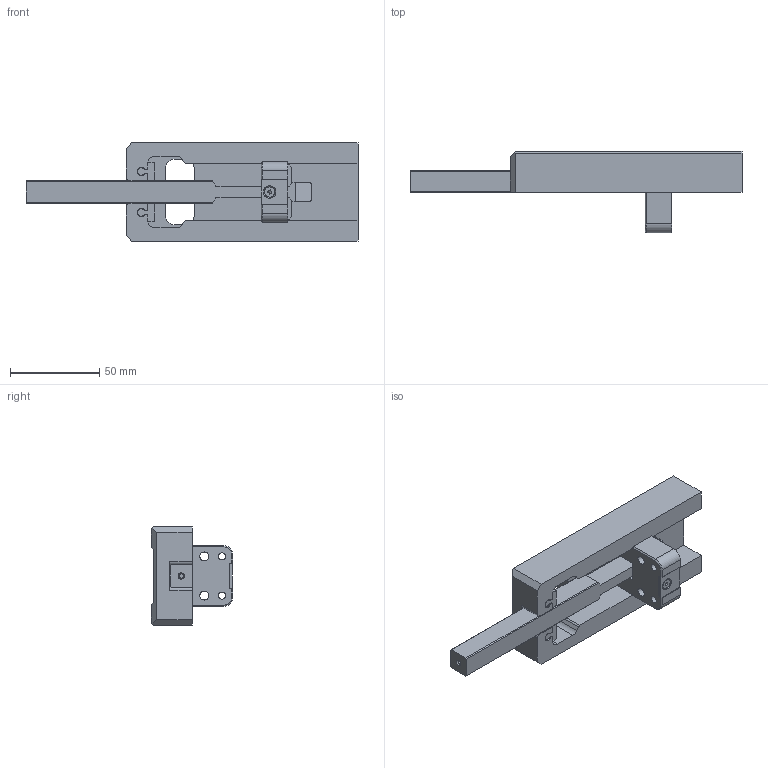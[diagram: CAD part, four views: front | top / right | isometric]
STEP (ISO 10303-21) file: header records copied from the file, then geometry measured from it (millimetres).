
FILE_DESCRIPTION (( 'STEP AP203' ), '1' );
FILE_NAME ('SA-60-130-25.STEP', '2015-06-16T04:54:47', ( '' ), ( '' ), 'SwSTEP 2.0', 'SolidWorks 2015', '' );
FILE_SCHEMA (( 'CONFIG_CONTROL_DESIGN' ));
Length unit declared in the file: millimetre
Products named in the file (2): SA-60-130-25
Bounding box: 186.32 x 45.7 x 55 mm (x, y, z)
Surface area: 38714.9 mm2 (no closed solid volume)
Topology: 0 solids, 10 shells, 141 faces, 488 edges, 348 vertices
Faces by surface type: plane 99, cylinder 33, cone 9
Full cylindrical faces by diameter (mm): 1.3 x2, 2.5 x1, 4 x2, 4.2 x2, 5 x2, 5.7 x1
Entity records: 5302 total; most frequent: CARTESIAN_POINT 994, DIRECTION 841, ORIENTED_EDGE 799, EDGE_CURVE 470, LINE 361, VECTOR 361, VERTEX_POINT 345, AXIS2_PLACEMENT_3D 240
